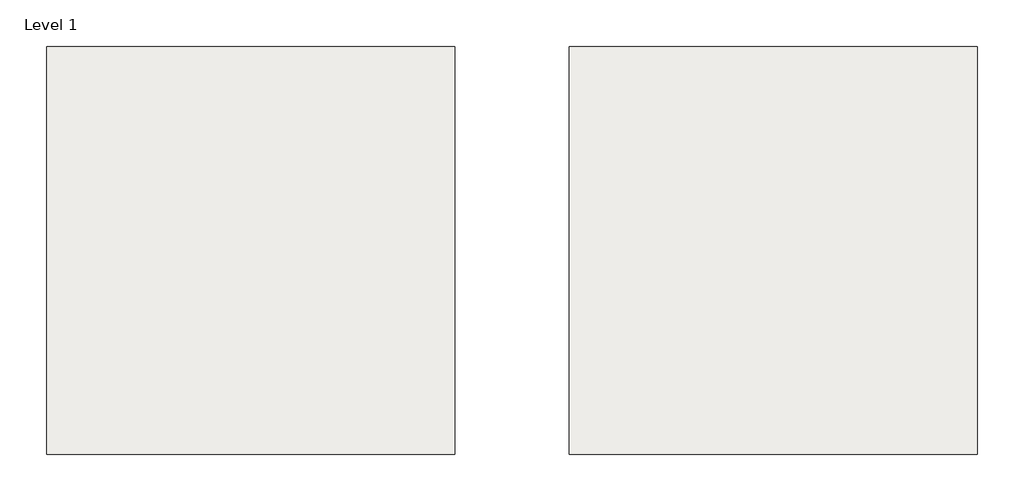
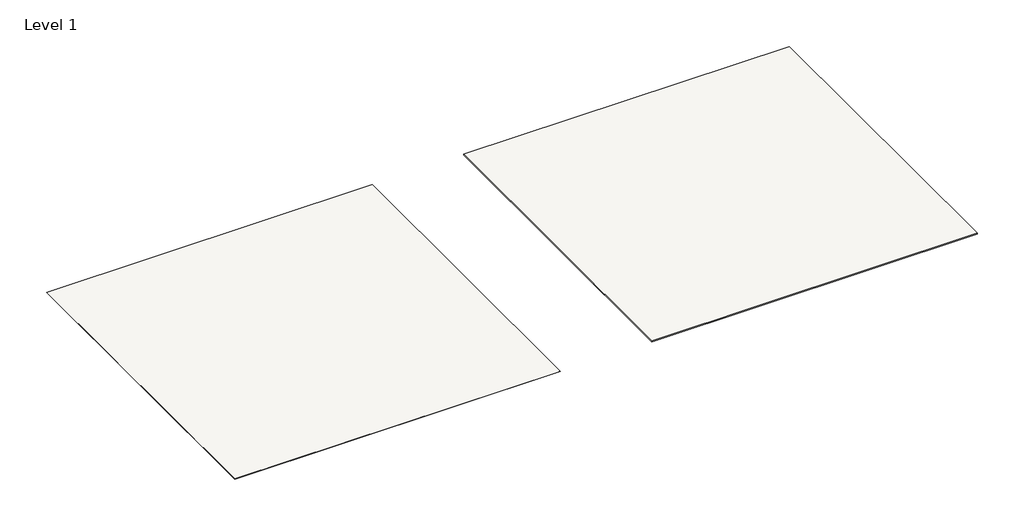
# One storey: 2 coverings.
"""IFC4 building model written with IfcOpenShell, lengths in millimetres."""

from ifc_helpers import new_model, si_unit, frame, origin, place, context, project, spatial, polyline, outline, extrude, element, save

model = new_model("IFC4")

# Units and contexts
model_context = context("Model", 3, world=origin())
ifc_project = project(units=[si_unit("LENGTHUNIT", "METRE", prefix="MILLI")], contexts=[model_context])

# Site, building, storey
site = spatial("IfcSite", under=ifc_project)
building = spatial("IfcBuilding", under=site)
storey = spatial("IfcBuildingStorey", under=building, Name="Level 1", Elevation=0.0)

# Coverings
placement = place(None, origin())
element("IfcCovering", 1, ObjectType="Thesize_Neolith_Winter-Dala_low 6mm + Silk", at=placement, inside=storey, context=model_context, shape_type="SweptSolid", body=[
    extrude(outline(polyline([(-29005.5177483, -26141.5586589), (-29005.5177483, -31141.5586589), (-34005.5177483, -31141.5586589), (-34005.5177483, -26141.5586589), (-29005.5177483, -26141.5586589)])), frame((0.0, 0.0, -6.0), z_axis=(0.0, 0.0, 1.0), x_axis=(1.0, 0.0, 0.0)), (0.0, 0.0, 1.0), 6.0),
])
element("IfcCovering", 2, ObjectType="Thesize_Neolith_Winter-Dala_low 12mm + Silk", at=placement, inside=storey, context=model_context, shape_type="SweptSolid", body=[
    extrude(outline(polyline([(-22605.5177483, -26141.5586589), (-22605.5177483, -31141.5586589), (-27605.5177483, -31141.5586589), (-27605.5177483, -26141.5586589), (-22605.5177483, -26141.5586589)])), frame((0.0, 0.0, -12.0), z_axis=(0.0, 0.0, 1.0), x_axis=(1.0, 0.0, 0.0)), (0.0, 0.0, 1.0), 12.0),
])

save(model, "model.ifc")
